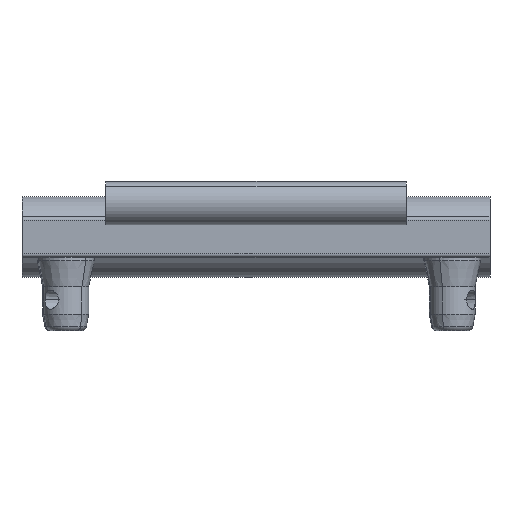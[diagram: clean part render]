
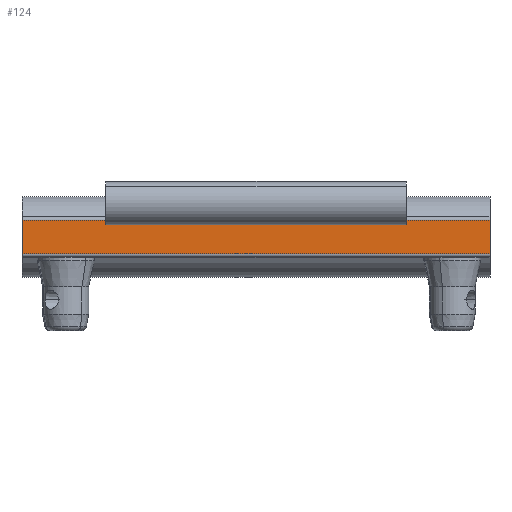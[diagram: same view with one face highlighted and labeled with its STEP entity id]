
A CAD part, left-side view. The second image highlights one B-rep face of the part: STEP entity #124.
In plain terms, the highlighted planar face has unit normal (-1, 0, 0).
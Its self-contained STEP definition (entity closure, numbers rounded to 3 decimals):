
#124 = ADVANCED_FACE ( 'NONE', ( #1080 ), #1079, .F. ) ;
#125 = EDGE_LOOP ( 'NONE', ( #126, #266, #269, #272 ) ) ;
#126 = ORIENTED_EDGE ( 'NONE', *, *, #264, .T. ) ;
#127 = VERTEX_POINT ( 'NONE', #1074 ) ;
#264 = EDGE_CURVE ( 'NONE', #127, #265, #1302, .T. ) ;
#265 = VERTEX_POINT ( 'NONE', #1298 ) ;
#266 = ORIENTED_EDGE ( 'NONE', *, *, #267, .T. ) ;
#267 = EDGE_CURVE ( 'NONE', #265, #268, #1297, .T. ) ;
#268 = VERTEX_POINT ( 'NONE', #1293 ) ;
#269 = ORIENTED_EDGE ( 'NONE', *, *, #270, .F. ) ;
#270 = EDGE_CURVE ( 'NONE', #271, #268, #1355, .T. ) ;
#271 = VERTEX_POINT ( 'NONE', #1351 ) ;
#272 = ORIENTED_EDGE ( 'NONE', *, *, #273, .T. ) ;
#273 = EDGE_CURVE ( 'NONE', #271, #127, #1350, .T. ) ;
#1074 = CARTESIAN_POINT ( 'NONE',  ( 0., 0., 23. ) ) ;
#1075 = DIRECTION ( 'NONE',  ( 0., 1., 0. ) ) ;
#1076 = DIRECTION ( 'NONE',  ( 1., 0., 0. ) ) ;
#1077 = CARTESIAN_POINT ( 'NONE',  ( 0., 0., 25. ) ) ;
#1078 = AXIS2_PLACEMENT_3D ( 'NONE', #1077, #1076, #1075 ) ;
#1079 = PLANE ( 'NONE',  #1078 ) ;
#1080 = FACE_OUTER_BOUND ( 'NONE', #125, .T. ) ;
#1293 = CARTESIAN_POINT ( 'NONE',  ( 0., -290., 2. ) ) ;
#1294 = DIRECTION ( 'NONE',  ( 0., -1., 0. ) ) ;
#1295 = VECTOR ( 'NONE', #1294, 1000. ) ;
#1296 = CARTESIAN_POINT ( 'NONE',  ( 0., 0., 2. ) ) ;
#1297 = LINE ( 'NONE', #1296, #1295 ) ;
#1298 = CARTESIAN_POINT ( 'NONE',  ( 0., 0., 2. ) ) ;
#1299 = DIRECTION ( 'NONE',  ( 0., 0., -1. ) ) ;
#1300 = VECTOR ( 'NONE', #1299, 1000. ) ;
#1301 = CARTESIAN_POINT ( 'NONE',  ( 0., 0., 25. ) ) ;
#1302 = LINE ( 'NONE', #1301, #1300 ) ;
#1347 = DIRECTION ( 'NONE',  ( 0., 1., 0. ) ) ;
#1348 = VECTOR ( 'NONE', #1347, 1000. ) ;
#1349 = CARTESIAN_POINT ( 'NONE',  ( 0., 0., 23. ) ) ;
#1350 = LINE ( 'NONE', #1349, #1348 ) ;
#1351 = CARTESIAN_POINT ( 'NONE',  ( 0., -290., 23. ) ) ;
#1352 = DIRECTION ( 'NONE',  ( 0., 0., -1. ) ) ;
#1353 = VECTOR ( 'NONE', #1352, 1000. ) ;
#1354 = CARTESIAN_POINT ( 'NONE',  ( 0., -290., 25. ) ) ;
#1355 = LINE ( 'NONE', #1354, #1353 ) ;
